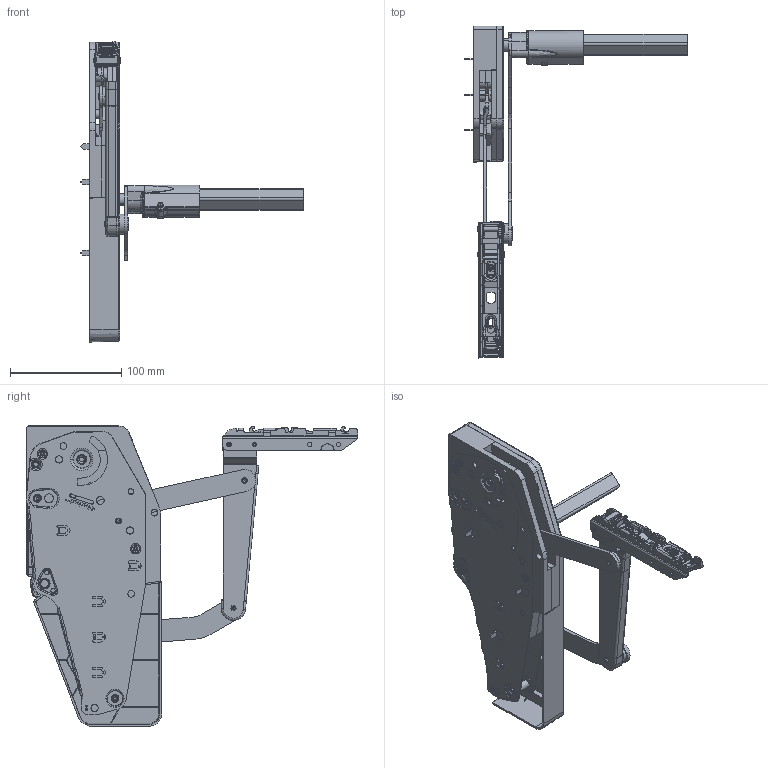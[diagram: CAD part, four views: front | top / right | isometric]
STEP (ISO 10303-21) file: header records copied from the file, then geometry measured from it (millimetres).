
FILE_DESCRIPTION((''),'2;1');
FILE_NAME('SLB_KUNDEN_LINKS_CLOSED_ASM','2015-02-03T',('7ke10'),('Kesseboehmer'),'PRO/ENGINEER BY PARAMETRIC TECHNOLOGY CORPORATION, 2014200','PRO/ENGINEER BY PARAMETRIC TECHNOLOGY CORPORATION, 2014200','');
FILE_SCHEMA(('AUTOMOTIVE_DESIGN { 1 0 10303 214 1 1 1 1 }'));
Products named in the file (50): 582726_1; 582727_1; 150691_3; 150692_3; 150699_1; 150700_1; 582730_ASM_2_ASM_ASM; 582651_1; 150776_1; 582469_ASM_1_ASM_ASM; 150697_2; 150701_3; 150698_1; 582457_1; MANIFOLD_SOLID_BREP_89521; MANIFOLD_SOLID_BREP_89848; 150720_1_ASM_ASM; 150719_1; 09_0122_258_001_0000_00_1; MANIFOLD_SOLID_BREP_110295; MANIFOLD_SOLID_BREP_110666; MANIFOLD_SOLID_BREP_111037; 08_0095_276_301_0000_00_1_ASM_ASM; 08_0095_278_301_0000_00_1; 09_0311_228_001_0000_00_1; 09_0018_093_001_0000_00_1; 09_0318_223_001_0000_00_1; 10_3637_002_201_0000_00_ASM_1_A_ASM; 150721_1; 150718_2; 150724_1; 150722_1; 150723_1; 150717_2; 582468_ASM_2_ASM_ASM; 582459_2; 150747_1; 150743_2; 582463_1; 150745_2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
Assembly tree (55 placements, depth 7):
  SLB_KUNDEN_LINKS_CLOSED_ASM
    SLB_LINKS_GESCHLOSSEN_KUNDEN_AS_ASM
      SLB_LINKS_KUNDEN_ASM_3_ASM_ASM
        582730_ASM_2_ASM_ASM
          582726_1
          582727_1
          150691_3
          150692_3
          150699_1
          150700_1  x2
        582469_ASM_1_ASM_ASM
          582651_1
          150776_1
        150697_2
        150701_3
        150699_1
        150698_1
        582468_ASM_2_ASM_ASM
          582457_1
          150720_1_ASM_ASM
            MANIFOLD_SOLID_BREP_89521
            MANIFOLD_SOLID_BREP_89848
          150719_1
          09_0122_258_001_0000_00_1
          10_3637_002_201_0000_00_ASM_1_A_ASM
            08_0095_276_301_0000_00_1_ASM_ASM
              MANIFOLD_SOLID_BREP_110295
              MANIFOLD_SOLID_BREP_110666
              MANIFOLD_SOLID_BREP_111037
            08_0095_278_301_0000_00_1
            09_0311_228_001_0000_00_1
            09_0018_093_001_0000_00_1
            09_0318_223_001_0000_00_1
          150721_1  x2
          150718_2
          150724_1
          150722_1
          150723_1
          150717_2
        582438_ASM_2_ASM_ASM
          582459_2
          150747_1
          150743_2
          582463_1
          582495_ASM_2_ASM_ASM
            150745_2
            150744_2
            MZ-0-31152-115100-00_1
          150758_1  x2
        MZ-121042-00_1  x3
        09_0036_312_006_0000_00_52
Bounding box: 200.2 x 299.09 x 270.45 mm (x, y, z)
Volume: 246978.8 mm3; surface area: 317052.5 mm2
Topology: 46 solids, 51 shells, 3883 faces, 10351 edges, 6640 vertices
Faces by surface type: plane 1848, cylinder 1298, cone 314, torus 255, bspline 130, sphere 28, extrusion 10
Entity records: 158534 total; most frequent: CARTESIAN_POINT 29903, DIRECTION 20304, ORIENTED_EDGE 20006, EDGE_CURVE 10003, PRESENTATION_STYLE_ASSIGNMENT 9217, STYLED_ITEM 8980, CURVE_STYLE 8495, AXIS2_PLACEMENT_3D 7301
